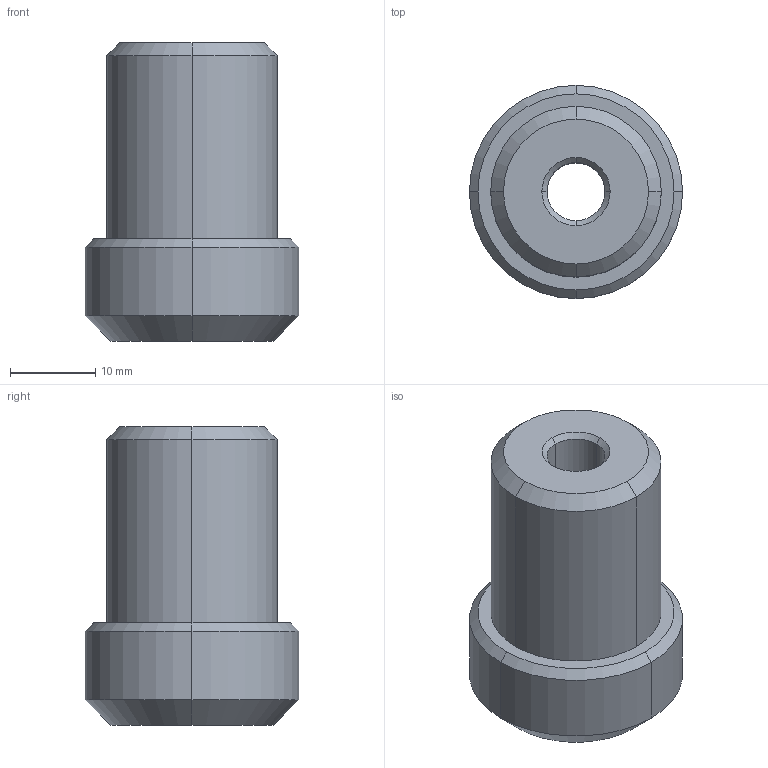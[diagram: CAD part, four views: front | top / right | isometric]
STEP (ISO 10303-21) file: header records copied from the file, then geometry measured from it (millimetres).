
FILE_DESCRIPTION((''),'2;1');
FILE_NAME('C:\WIXROYD\Positioning\3010\3010W610.stp','2003-01-09T12:48:08',('Administrator'),(''),'Autodesk Inventor (tm) 5.0','Autodesk Inventor (tm) 5.0','');
FILE_SCHEMA(('CONFIG_CONTROL_DESIGN'));
Length unit declared in the file: millimetre
Products named in the file (1): 3010W610
Bounding box: 25 x 25 x 35 mm (x, y, z)
Volume: 11011.2 mm3; surface area: 3871.9 mm2
Topology: 1 solids, 1 shells, 36 faces, 80 edges, 48 vertices
Faces by surface type: cylinder 16, cone 16, plane 4
Entity records: 1103 total; most frequent: DIRECTION 202, CARTESIAN_POINT 165, ORIENTED_EDGE 160, AXIS2_PLACEMENT_3D 85, EDGE_CURVE 80, VERTEX_POINT 48, CIRCLE 48, EDGE_LOOP 40
